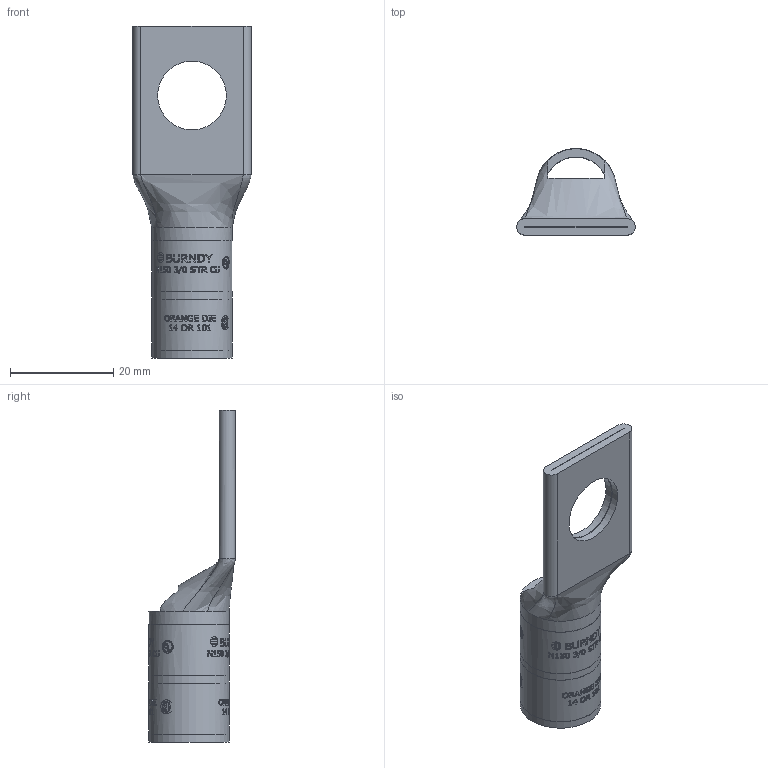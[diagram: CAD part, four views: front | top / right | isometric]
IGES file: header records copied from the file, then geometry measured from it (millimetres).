
Global section: file name: No Iges File Name specified; native system: Autodesk Inventor 2012; preprocessor: AutoDesk Inventor Iges Exporter R2012; author: rshanmugam; date: 20130920.120532; units: inch
Bounding box: 22.99 x 16.84 x 64.41 mm (x, y, z)
Volume: 4051.5 mm3; surface area: 5510.8 mm2
Topology: 1 solids, 1 shells, 1460 faces, 3964 edges, 2644 vertices
Faces by surface type: plane 689, bspline 616, cylinder 136, revolution 19
Full cylindrical faces by diameter (mm): 2.012 x1, 15.621 x3, 15.672 x2
